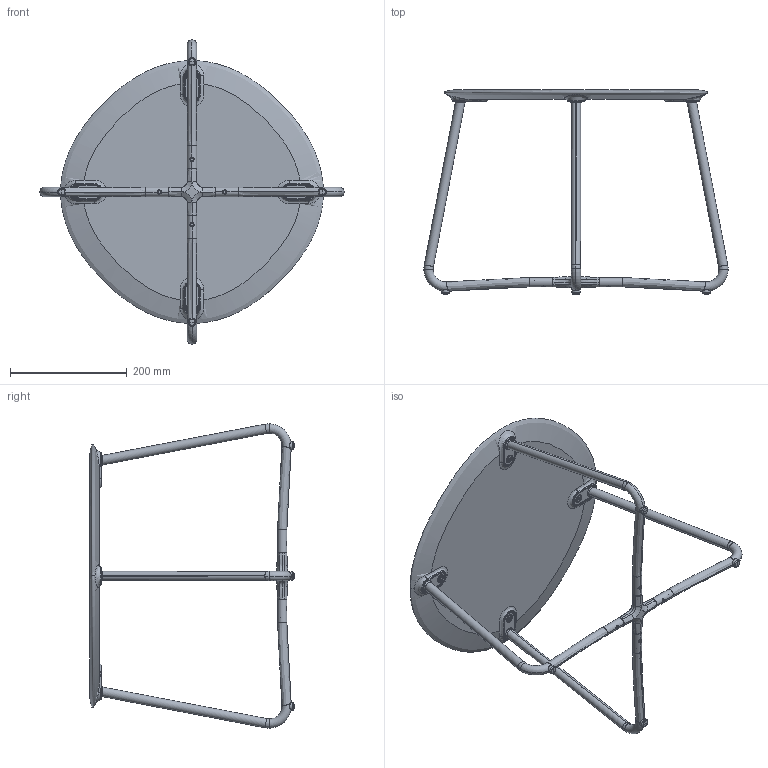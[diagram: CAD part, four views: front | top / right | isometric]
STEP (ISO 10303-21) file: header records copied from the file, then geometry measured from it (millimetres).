
FILE_DESCRIPTION (( 'STEP AP214' ), '1' );
FILE_NAME ('Lily_Side_Table_H350.STEP', '2023-08-02T11:55:45', ( '' ), ( '' ), 'SwSTEP 2.0', 'SolidWorks 2023', '' );
FILE_SCHEMA (( 'AUTOMOTIVE_DESIGN' ));
Length unit declared in the file: millimetre
Products named in the file (8): 230802 Lily leg ø450 high (35mm move); STAR1416-195S-Ackurat; socket set screw cone point_iso_ISO 4027 - M6 x 14-N; Lily_Side_Table_H350; 230213 Lily top; countersunk flat head cross recess screw_iso_ISO 7046-1 - M6 x 16 - Z - 16S; 230327 4 way connector (approved for tooling); Grooved Bushing M6x8.8x13.5
Assembly tree (22 placements, depth 2):
  Lily_Side_Table_H350
    230213 Lily top
    countersunk flat head cross recess screw_iso_ISO 7046-1 - M6 x 16 - Z - 16S  x4
    Grooved Bushing M6x8.8x13.5  x4
    230802 Lily leg ø450 high (35mm move)  x4
    230327 4 way connector (approved for tooling)
    STAR1416-195S-Ackurat  x4
    socket set screw cone point_iso_ISO 4027 - M6 x 14-N  x4
Bounding box: 521.19 x 350 x 521.19 mm (x, y, z)
Volume: 2532206.7 mm3; surface area: 539517.2 mm2
Topology: 24 solids, 24 shells, 1163 faces, 3114 edges, 1997 vertices
Faces by surface type: cone 296, bspline 272, cylinder 258, plane 225, torus 112
Entity records: 43847 total; most frequent: CARTESIAN_POINT 31329, ORIENTED_EDGE 3174, DIRECTION 1666, EDGE_CURVE 1587, VERTEX_POINT 1079, B_SPLINE_CURVE_WITH_KNOTS 870, AXIS2_PLACEMENT_3D 679, EDGE_LOOP 584
